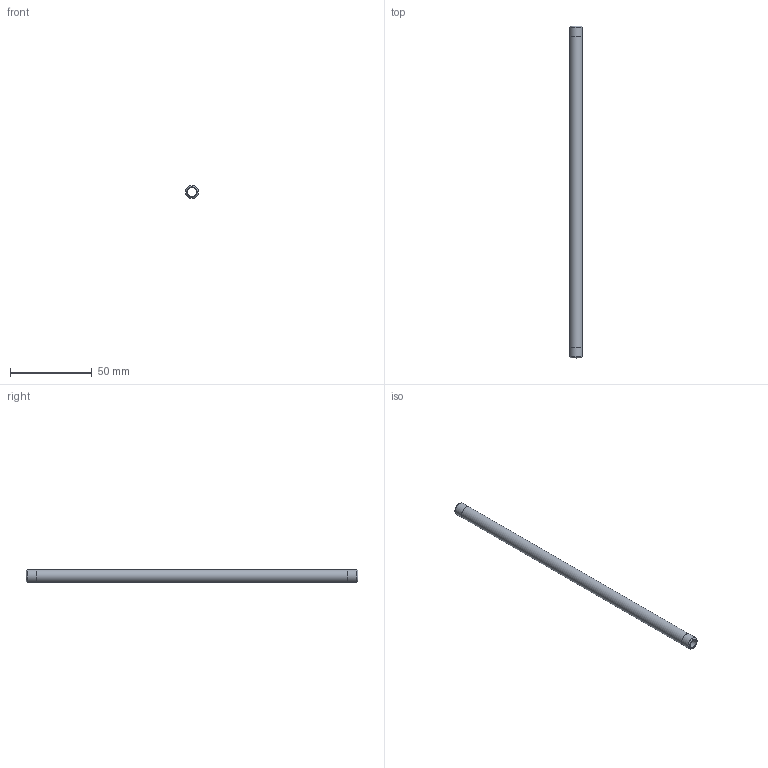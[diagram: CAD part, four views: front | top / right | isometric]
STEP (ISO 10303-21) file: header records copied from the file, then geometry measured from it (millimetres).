
FILE_DESCRIPTION(/* description */ (''),/* implementation_level */ '2;1');
FILE_NAME(/* name */ 'C:/Users/drich/Desktop/SSPN16-8 v1.step',/* time_stamp */ '2020-01-04T13:23:39-06:00',/* author */ (''),/* organization */ (''),/* preprocessor_version */ 'ST-DEVELOPER v18',/* originating_system */ 'Autodesk Translation Framework v8.12.0.6',/* authorisation */ '');
FILE_SCHEMA (('AUTOMOTIVE_DESIGN { 1 0 10303 214 3 1 1 }'));
Length unit declared in the file: inch
Products named in the file (1): SSPN16-8
Bounding box: 7.92 x 203.2 x 7.92 mm (x, y, z)
Volume: 5503.9 mm3; surface area: 8476.6 mm2
Topology: 1 solids, 1 shells, 10 faces, 24 edges, 18 vertices
Faces by surface type: cylinder 4, plane 4, cone 2
Full cylindrical faces by diameter (mm): 5.309 x1, 7.874 x2, 7.925 x1
Entity records: 353 total; most frequent: DIRECTION 64, CARTESIAN_POINT 53, ORIENTED_EDGE 48, AXIS2_PLACEMENT_3D 29, EDGE_CURVE 24, CIRCLE 18, VERTEX_POINT 18, EDGE_LOOP 14
